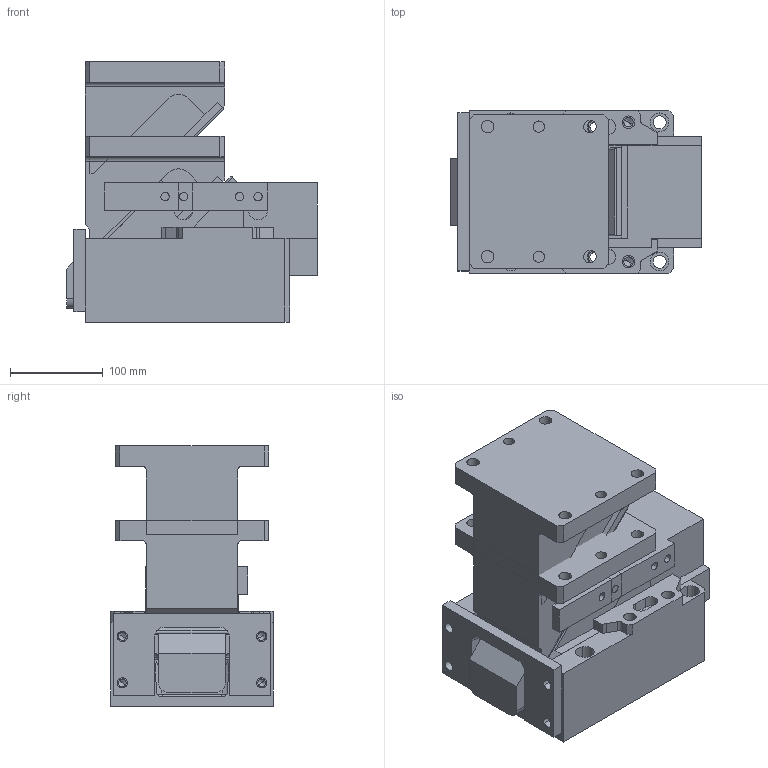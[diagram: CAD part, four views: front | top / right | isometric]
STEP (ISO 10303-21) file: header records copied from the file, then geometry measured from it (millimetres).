
FILE_DESCRIPTION(('CATIA V5 STEP','CAx-IF Rec.Pracs.--- Model Styling and Organization---1.4--- 2014-01-23','CAx-IF Rec.Pracs.---3D Tessellated Data Validation Properties---0.5---2014-09-14'),'2;1');
FILE_NAME('H:\_COMPRESS_2\2016.14.00.100.080.1.2__CM.stp','2020-11-18T12:50:40+00:00',('${USER}'),('AUDI AG, ${GROUP}'),'CATIA Version 5-6 Release 2018 SP3 HF27','CATIA V5 STEP AP242','none');
FILE_SCHEMA(('AP242_MANAGED_MODEL_BASED_3D_ENGINEERING_MIM_LF {1 0 10303 442 1 1 4}'));
Length unit declared in the file: millimetre
Products named in the file (1): 2016.14.00.100.080.1.2__CM
Bounding box: 270 x 175 x 280 mm (x, y, z)
Volume: 8993729.8 mm3; surface area: 717807.8 mm2
Topology: 4 solids, 6 shells, 698 faces, 1700 edges, 1059 vertices
Faces by surface type: plane 349, cylinder 271, cone 40, torus 32, sphere 4, bspline 2
Entity records: 19202 total; most frequent: CARTESIAN_POINT 3948, ORIENTED_EDGE 3322, DIRECTION 2575, EDGE_CURVE 1661, VERTEX_POINT 1055, VECTOR 1049, LINE 1049, AXIS2_PLACEMENT_3D 1038
